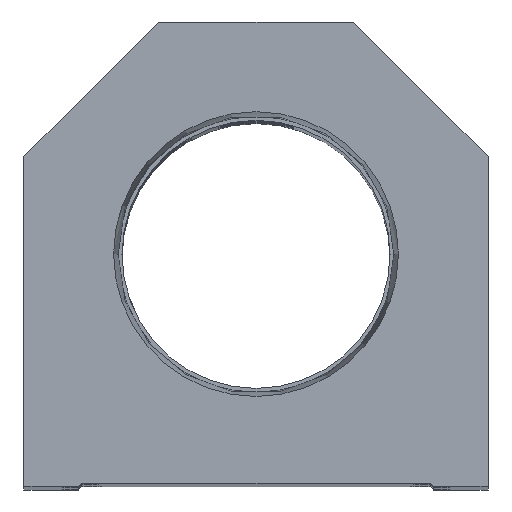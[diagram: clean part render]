
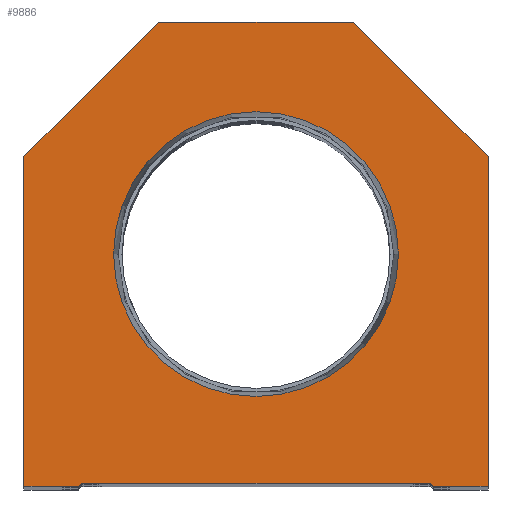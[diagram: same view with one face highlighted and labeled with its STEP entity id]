
A CAD part, top view. The second image highlights one B-rep face of the part: STEP entity #9886.
In plain terms, the highlighted planar face has unit normal (0, 0, 1).
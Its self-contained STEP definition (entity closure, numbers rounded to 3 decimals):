
#41 = VERTEX_POINT ( 'NONE', #6183 ) ;
#806 = LINE ( 'NONE', #2591, #9232 ) ;
#927 = ORIENTED_EDGE ( 'NONE', *, *, #16371, .T. ) ;
#1382 = ORIENTED_EDGE ( 'NONE', *, *, #1661, .T. ) ;
#1503 = VERTEX_POINT ( 'NONE', #17263 ) ;
#1561 = VECTOR ( 'NONE', #7575, 1000. ) ;
#1661 = EDGE_CURVE ( 'NONE', #11117, #1991, #20020, .T. ) ;
#1664 = CARTESIAN_POINT ( 'NONE',  ( -28.6, 0., 0. ) ) ;
#1743 = VECTOR ( 'NONE', #9807, 1000. ) ;
#1890 = AXIS2_PLACEMENT_3D ( 'NONE', #13621, #7077, #6862 ) ;
#1991 = VERTEX_POINT ( 'NONE', #16781 ) ;
#2013 = LINE ( 'NONE', #17102, #6939 ) ;
#2526 = VERTEX_POINT ( 'NONE', #14267 ) ;
#2591 = CARTESIAN_POINT ( 'NONE',  ( 38.1, 0., 0. ) ) ;
#2737 = DIRECTION ( 'NONE',  ( 0., 0., 1. ) ) ;
#3091 = LINE ( 'NONE', #19850, #19603 ) ;
#3274 = DIRECTION ( 'NONE',  ( 1., 0., 0. ) ) ;
#3449 = ORIENTED_EDGE ( 'NONE', *, *, #18472, .T. ) ;
#3475 = DIRECTION ( 'NONE',  ( 0.707, 0.707, 0. ) ) ;
#3631 = DIRECTION ( 'NONE',  ( 0., 1., 0. ) ) ;
#3772 = ORIENTED_EDGE ( 'NONE', *, *, #13831, .T. ) ;
#4159 = CARTESIAN_POINT ( 'NONE',  ( 28.6, 0., 0. ) ) ;
#4262 = ORIENTED_EDGE ( 'NONE', *, *, #5003, .T. ) ;
#4321 = VECTOR ( 'NONE', #5106, 1000. ) ;
#4364 = CARTESIAN_POINT ( 'NONE',  ( -29.1, 0., 0. ) ) ;
#4579 = ORIENTED_EDGE ( 'NONE', *, *, #9477, .T. ) ;
#4640 = DIRECTION ( 'NONE',  ( 0.707, -0.707, 0. ) ) ;
#4729 = CARTESIAN_POINT ( 'NONE',  ( 0., 0., 0. ) ) ;
#5003 = EDGE_CURVE ( 'NONE', #12313, #41, #20906, .T. ) ;
#5013 = LINE ( 'NONE', #18564, #8106 ) ;
#5106 = DIRECTION ( 'NONE',  ( -0.707, 0.707, 0. ) ) ;
#5425 = AXIS2_PLACEMENT_3D ( 'NONE', #4729, #2737, #16593 ) ;
#5686 = LINE ( 'NONE', #16014, #1561 ) ;
#5693 = EDGE_LOOP ( 'NONE', ( #18906, #21775 ) ) ;
#5810 = VECTOR ( 'NONE', #15914, 1000. ) ;
#6171 = FACE_OUTER_BOUND ( 'NONE', #18239, .T. ) ;
#6183 = CARTESIAN_POINT ( 'NONE',  ( 38.1, 0., 0. ) ) ;
#6545 = CARTESIAN_POINT ( 'NONE',  ( 29.1, 0., 0. ) ) ;
#6583 = CARTESIAN_POINT ( 'NONE',  ( -38.1, 0., 0. ) ) ;
#6630 = DIRECTION ( 'NONE',  ( -1., 0., 0. ) ) ;
#6862 = DIRECTION ( 'NONE',  ( 1., 0., 0. ) ) ;
#6939 = VECTOR ( 'NONE', #3475, 1000. ) ;
#6965 = ORIENTED_EDGE ( 'NONE', *, *, #11620, .T. ) ;
#7077 = DIRECTION ( 'NONE',  ( 0., 0., 1. ) ) ;
#7575 = DIRECTION ( 'NONE',  ( 1., 0., 0. ) ) ;
#7900 = CIRCLE ( 'NONE', #1890, 23.374 ) ;
#8106 = VECTOR ( 'NONE', #15191, 1000. ) ;
#8189 = CARTESIAN_POINT ( 'NONE',  ( 16., 76.2, 0. ) ) ;
#8207 = CARTESIAN_POINT ( 'NONE',  ( 38.1, 54.1, 0. ) ) ;
#8651 = EDGE_CURVE ( 'NONE', #21750, #16606, #19230, .T. ) ;
#8995 = VERTEX_POINT ( 'NONE', #4364 ) ;
#9000 = CARTESIAN_POINT ( 'NONE',  ( 16., 76.2, 0. ) ) ;
#9113 = CARTESIAN_POINT ( 'NONE',  ( -16., 76.2, 0. ) ) ;
#9232 = VECTOR ( 'NONE', #3631, 1000. ) ;
#9329 = VERTEX_POINT ( 'NONE', #20628 ) ;
#9351 = EDGE_CURVE ( 'NONE', #16606, #21750, #7900, .T. ) ;
#9477 = EDGE_CURVE ( 'NONE', #2526, #12313, #3091, .T. ) ;
#9807 = DIRECTION ( 'NONE',  ( 0., -1., 0. ) ) ;
#9886 = ADVANCED_FACE ( 'NONE', ( #13098, #6171 ), #19921, .T. ) ;
#10386 = DIRECTION ( 'NONE',  ( 1., 0., 0. ) ) ;
#11029 = AXIS2_PLACEMENT_3D ( 'NONE', #13545, #17126, #3274 ) ;
#11117 = VERTEX_POINT ( 'NONE', #11173 ) ;
#11173 = CARTESIAN_POINT ( 'NONE',  ( -38.1, 54.1, 0. ) ) ;
#11620 = EDGE_CURVE ( 'NONE', #41, #9329, #806, .T. ) ;
#12291 = EDGE_CURVE ( 'NONE', #9329, #19035, #21764, .T. ) ;
#12313 = VERTEX_POINT ( 'NONE', #6545 ) ;
#13098 = FACE_BOUND ( 'NONE', #5693, .T. ) ;
#13545 = CARTESIAN_POINT ( 'NONE',  ( 0., 38.1, 0. ) ) ;
#13621 = CARTESIAN_POINT ( 'NONE',  ( 0., 38.1, 0. ) ) ;
#13769 = VERTEX_POINT ( 'NONE', #9113 ) ;
#13831 = EDGE_CURVE ( 'NONE', #1503, #2526, #5686, .T. ) ;
#14267 = CARTESIAN_POINT ( 'NONE',  ( 28.6, 0.5, 0. ) ) ;
#14371 = ORIENTED_EDGE ( 'NONE', *, *, #16577, .T. ) ;
#15191 = DIRECTION ( 'NONE',  ( -0.707, -0.707, 0. ) ) ;
#15408 = CARTESIAN_POINT ( 'NONE',  ( 23.374, 38.1, 0. ) ) ;
#15914 = DIRECTION ( 'NONE',  ( 1., 0., 0. ) ) ;
#16014 = CARTESIAN_POINT ( 'NONE',  ( -28.6, 0.5, 0. ) ) ;
#16161 = ORIENTED_EDGE ( 'NONE', *, *, #19197, .T. ) ;
#16371 = EDGE_CURVE ( 'NONE', #8995, #1503, #2013, .T. ) ;
#16577 = EDGE_CURVE ( 'NONE', #1991, #8995, #18540, .T. ) ;
#16593 = DIRECTION ( 'NONE',  ( 1., 0., 0. ) ) ;
#16606 = VERTEX_POINT ( 'NONE', #15408 ) ;
#16619 = CARTESIAN_POINT ( 'NONE',  ( -23.374, 38.1, 0. ) ) ;
#16781 = CARTESIAN_POINT ( 'NONE',  ( -38.1, 0., 0. ) ) ;
#17102 = CARTESIAN_POINT ( 'NONE',  ( -14.55, 14.55, 0. ) ) ;
#17126 = DIRECTION ( 'NONE',  ( 0., 0., 1. ) ) ;
#17263 = CARTESIAN_POINT ( 'NONE',  ( -28.6, 0.5, 0. ) ) ;
#18239 = EDGE_LOOP ( 'NONE', ( #14371, #927, #3772, #4579, #4262, #6965, #19068, #3449, #16161, #1382 ) ) ;
#18472 = EDGE_CURVE ( 'NONE', #19035, #13769, #20283, .T. ) ;
#18540 = LINE ( 'NONE', #1664, #19025 ) ;
#18564 = CARTESIAN_POINT ( 'NONE',  ( -38.1, 54.1, 0. ) ) ;
#18709 = VECTOR ( 'NONE', #6630, 1000. ) ;
#18906 = ORIENTED_EDGE ( 'NONE', *, *, #9351, .F. ) ;
#19025 = VECTOR ( 'NONE', #10386, 1000. ) ;
#19035 = VERTEX_POINT ( 'NONE', #9000 ) ;
#19068 = ORIENTED_EDGE ( 'NONE', *, *, #12291, .T. ) ;
#19197 = EDGE_CURVE ( 'NONE', #13769, #11117, #5013, .T. ) ;
#19230 = CIRCLE ( 'NONE', #11029, 23.374 ) ;
#19603 = VECTOR ( 'NONE', #4640, 1000. ) ;
#19850 = CARTESIAN_POINT ( 'NONE',  ( 14.55, 14.55, 0. ) ) ;
#19921 = PLANE ( 'NONE',  #5425 ) ;
#20020 = LINE ( 'NONE', #6583, #1743 ) ;
#20283 = LINE ( 'NONE', #8189, #18709 ) ;
#20628 = CARTESIAN_POINT ( 'NONE',  ( 38.1, 54.1, 0. ) ) ;
#20906 = LINE ( 'NONE', #4159, #5810 ) ;
#21750 = VERTEX_POINT ( 'NONE', #16619 ) ;
#21764 = LINE ( 'NONE', #8207, #4321 ) ;
#21775 = ORIENTED_EDGE ( 'NONE', *, *, #8651, .F. ) ;
